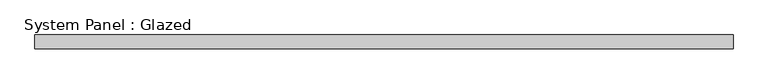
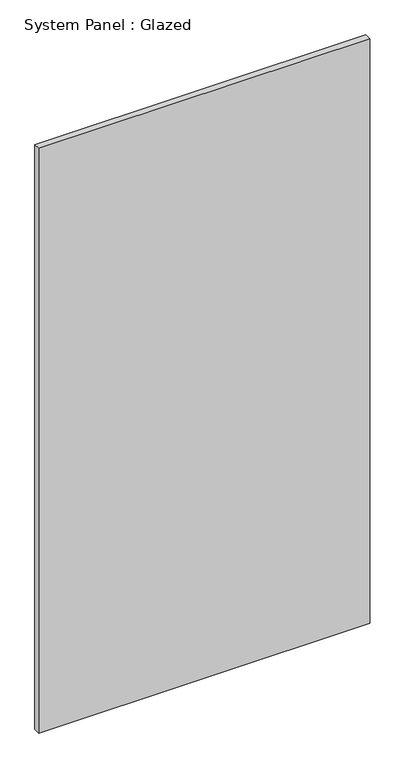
"""IFC4 building model written with IfcOpenShell, lengths in millimetres: plate geometry, System Panel : Glazed."""

import ifcopenshell
import ifcopenshell.guid

model = None  # the IFC model being written
_history = None  # IfcOwnerHistory: only IFC2X3 demands one
_inside = {}  # id of a spatial element -> (the spatial element, [elements in it])
_under = {}  # id of a project, library or spatial element -> (it, [spatial elements below it])
_declared = {}  # id of a project -> (the project, [libraries it declares])
_typed = {}  # id of a type object -> (the type object, [elements of that type])
_made_of = {}  # id of a material, layer set ... -> (it, [elements and type objects made of it])


def new_model(schema):
    """Start an empty IFC model of exactly this schema.

    Asked for "IFC4X3", IfcOpenShell would pick the latest addendum, in which some entities
    have other attributes; the version numbers below select the first issue.
    IFC2X3 requires an IfcOwnerHistory on every rooted entity: one is made here for all.
    """
    global model, _history
    if schema == "IFC4X3":
        model = ifcopenshell.file(schema_version=(4, 3, 0, 0))
    else:
        model = ifcopenshell.file(schema=schema)
    _inside.clear()
    _under.clear()
    _declared.clear()
    _typed.clear()
    _made_of.clear()
    _history = None
    if model.schema == "IFC2X3":
        org = make("IfcOrganization", Name="unknown")
        user = make(
            "IfcPersonAndOrganization",
            ThePerson=make("IfcPerson", FamilyName="unknown"),
            TheOrganization=org,
        )
        app = make(
            "IfcApplication",
            ApplicationDeveloper=org,
            Version="unknown",
            ApplicationFullName="unknown",
            ApplicationIdentifier="unknown",
        )
        _history = make(
            "IfcOwnerHistory",
            OwningUser=user,
            OwningApplication=app,
            ChangeAction="ADDED",
            CreationDate=0,
        )
    return model


def make(cls, **values):
    """One entity of the class cls with the attributes given. An attribute that is None is left unset."""
    return model.create_entity(
        cls, **{name: value for name, value in values.items() if value is not None}
    )


def rooted(cls, **values):
    """An entity with a GlobalId (a new one), such as an element, a storey or a relation."""
    return make(cls, GlobalId=ifcopenshell.guid.new(), OwnerHistory=_history, **values)


def si_unit(unit_type, name, prefix=None):
    """IfcSIUnit, for example si_unit("LENGTHUNIT", "METRE", prefix="MILLI")."""
    return make("IfcSIUnit", UnitType=unit_type, Prefix=prefix, Name=name)


def assignment(units):
    """IfcUnitAssignment: the units of a project."""
    return None if units is None else make("IfcUnitAssignment", Units=units)


def point(xyz):
    """IfcCartesianPoint."""
    return None if xyz is None else make("IfcCartesianPoint", Coordinates=xyz)


def direction(xyz):
    """IfcDirection."""
    return None if xyz is None else make("IfcDirection", DirectionRatios=xyz)


def frame(location, z_axis=None, x_axis=None):
    """IfcAxis2Placement3D, a coordinate frame: its origin and axes. An axis left out is left unset."""
    return make(
        "IfcAxis2Placement3D",
        Location=point(location),
        Axis=direction(z_axis),
        RefDirection=direction(x_axis),
    )


def origin():
    """The frame at (0, 0, 0) with its axes left unset."""
    return frame((0.0, 0.0, 0.0))


def origin_with_axes():
    """The frame at (0, 0, 0) with the z axis (0, 0, 1) and the x axis (1, 0, 0) written out."""
    return frame((0.0, 0.0, 0.0), z_axis=(0.0, 0.0, 1.0), x_axis=(1.0, 0.0, 0.0))


def place(relative_to, where):
    """IfcLocalPlacement: puts the frame where relative to a parent placement (None: the world)."""
    return make(
        "IfcLocalPlacement", PlacementRelTo=relative_to, RelativePlacement=where
    )


def context(
    kind, dimensions, precision=None, world=None, true_north=None, identifier=None
):
    """IfcGeometricRepresentationContext, for example the 3D "Model" context."""
    return make(
        "IfcGeometricRepresentationContext",
        ContextIdentifier=identifier,
        ContextType=kind,
        CoordinateSpaceDimension=dimensions,
        Precision=precision,
        WorldCoordinateSystem=world,
        TrueNorth=true_north,
    )


def project(units=None, contexts=None):
    """IfcProject with its units and contexts."""
    return rooted(
        "IfcProject",
        Name="project",
        RepresentationContexts=contexts,
        UnitsInContext=assignment(units),
    )


def spatial(cls, under=None, at=None, **own):
    """A site, building, storey or space (cls), placed at a placement, below another one or the project."""
    s = rooted(cls, ObjectPlacement=at, **own)
    if under is not None:
        _under.setdefault(under.id(), (under, []))[1].append(s)
    return s


def polyline(points):
    """IfcPolyline through the points."""
    return make("IfcPolyline", Points=[point(p) for p in points])


def outline(outer, holes=None, kind="AREA"):
    """IfcArbitraryClosedProfileDef: a profile drawn as a closed curve; with holes, ...WithVoids."""
    if holes is None:
        return make("IfcArbitraryClosedProfileDef", ProfileType=kind, OuterCurve=outer)
    return make(
        "IfcArbitraryProfileDefWithVoids",
        ProfileType=kind,
        OuterCurve=outer,
        InnerCurves=holes,
    )


def extrude(swept, where, along, depth):
    """IfcExtrudedAreaSolid: the profile swept, set in the frame where, extruded along a direction by depth."""
    return make(
        "IfcExtrudedAreaSolid",
        SweptArea=swept,
        Position=where,
        ExtrudedDirection=direction(along),
        Depth=depth,
    )


def shape(context_of_items, identifier, shape_type, items):
    """IfcShapeRepresentation: the items that make up one representation, for example the "Body"."""
    return make(
        "IfcShapeRepresentation",
        ContextOfItems=context_of_items,
        RepresentationIdentifier=identifier,
        RepresentationType=shape_type,
        Items=items,
    )


def source(mapping_origin, context_of_items, identifier, shape_type, items):
    """IfcRepresentationMap: a shape defined once, which mapped items show again and again."""
    return make(
        "IfcRepresentationMap",
        MappingOrigin=mapping_origin,
        MappedRepresentation=shape(context_of_items, identifier, shape_type, items),
    )


def transform(
    local_origin,
    x_axis=None,
    y_axis=None,
    z_axis=None,
    scale=None,
    scale2=None,
    scale3=None,
    uniform=True,
):
    """IfcCartesianTransformationOperator3D, or its non-uniform kind. x_axis, y_axis, z_axis: its Axis1, 2, 3."""
    if uniform:
        return make(
            "IfcCartesianTransformationOperator3D",
            Axis1=direction(x_axis),
            Axis2=direction(y_axis),
            LocalOrigin=point(local_origin),
            Scale=scale,
            Axis3=direction(z_axis),
        )
    return make(
        "IfcCartesianTransformationOperator3DnonUniform",
        Axis1=direction(x_axis),
        Axis2=direction(y_axis),
        LocalOrigin=point(local_origin),
        Scale=scale,
        Axis3=direction(z_axis),
        Scale2=scale2,
        Scale3=scale3,
    )


def mapped(mapping_source, mapping_target):
    """IfcMappedItem: shows the shape of a source again, moved by a transform."""
    return make(
        "IfcMappedItem", MappingSource=mapping_source, MappingTarget=mapping_target
    )


def made_of(thing, what):
    """Note that an element or type object is made of a material, layer set ...; save() writes the relation."""
    if what is not None:
        _made_of.setdefault(what.id(), (what, []))[1].append(thing)
    return thing


def element(
    cls,
    number,
    at=None,
    inside=None,
    cuts=None,
    type_object=None,
    material=None,
    context=None,
    identifier="Body",
    shape_type=None,
    held_by="IfcProductDefinitionShape",
    body=None,
    shapes=None,
    **own,
):
    """One element of the class cls, such as IfcWall. Its Tag is "e" and its number.

    at: its placement. inside: the storey or other place that contains it. cuts: it is an
    opening in that element (IfcRelVoidsElement). A single representation is given by context,
    identifier, shape_type and body (its items); several are given by shapes. held_by: the class
    of the entity that holds the representations. save() writes the other relations.
    """
    e = rooted(cls, Tag="e%d" % number, ObjectPlacement=at, **own)
    if body is not None:
        shapes = [shape(context, identifier, shape_type, body)]
    if shapes is not None:
        e.Representation = make(held_by, Representations=shapes)
    if inside is not None:
        _inside.setdefault(inside.id(), (inside, []))[1].append(e)
    if cuts is not None:
        rooted(
            "IfcRelVoidsElement", RelatingBuildingElement=cuts, RelatedOpeningElement=e
        )
    if type_object is not None:
        _typed.setdefault(type_object.id(), (type_object, []))[1].append(e)
    return made_of(e, material)


def aggregate(whole, parts):
    """IfcRelAggregates: a whole, such as a stair, and the parts it consists of."""
    return rooted("IfcRelAggregates", RelatingObject=whole, RelatedObjects=parts)


def save(model, path):
    """Write the relations noted so far, then the file.

    IfcRelAggregates (storeys below a building ...), IfcRelContainedInSpatialStructure (elements
    in a storey), IfcRelDefinesByType, IfcRelAssociatesMaterial and IfcRelDeclares: one each for
    every whole, place, type object, material and project.
    """
    for whole, parts in _under.values():
        aggregate(whole, parts)
    for where, things in _inside.values():
        rooted(
            "IfcRelContainedInSpatialStructure",
            RelatedElements=things,
            RelatingStructure=where,
        )
    for kind, things in _typed.values():
        rooted("IfcRelDefinesByType", RelatedObjects=things, RelatingType=kind)
    for what, things in _made_of.values():
        rooted("IfcRelAssociatesMaterial", RelatedObjects=things, RelatingMaterial=what)
    for by, libraries in _declared.values():
        rooted("IfcRelDeclares", RelatingContext=by, RelatedDefinitions=libraries)
    model.write(path)


def system_panel_glazed_1235180c(model_context):
    return source(origin(), model_context, "Body", "SweptSolid", [
        extrude(outline(polyline([(632.7777778, -49.5), (-632.7777778, -49.5), (-632.7777778, -24.5), (632.7777778, -24.5), (632.7777778, -49.5)])), origin_with_axes(), (0.0, 0.0, 1.0), 2363.4),
    ])


if __name__ == "__main__":
    model = new_model("IFC4")
    model_context = context("Model", 3, world=origin())
    ifc_project = project(units=[si_unit("LENGTHUNIT", "METRE", prefix="MILLI")], contexts=[model_context])
    site = spatial("IfcSite", under=ifc_project)
    building = spatial("IfcBuilding", under=site)
    placement = place(None, origin())
    system_panel_glazed_shape = system_panel_glazed_1235180c(model_context)
    element("IfcPlate", 1, ObjectType="System Panel : Glazed", at=placement, inside=building, context=model_context, shape_type="MappedRepresentation", body=[
        mapped(system_panel_glazed_shape, transform((0.0, 0.0, 0.0), x_axis=(1.0, 0.0, 0.0), y_axis=(0.0, 1.0, 0.0), z_axis=(0.0, 0.0, 1.0))),
    ])
    save(model, "model.ifc")
